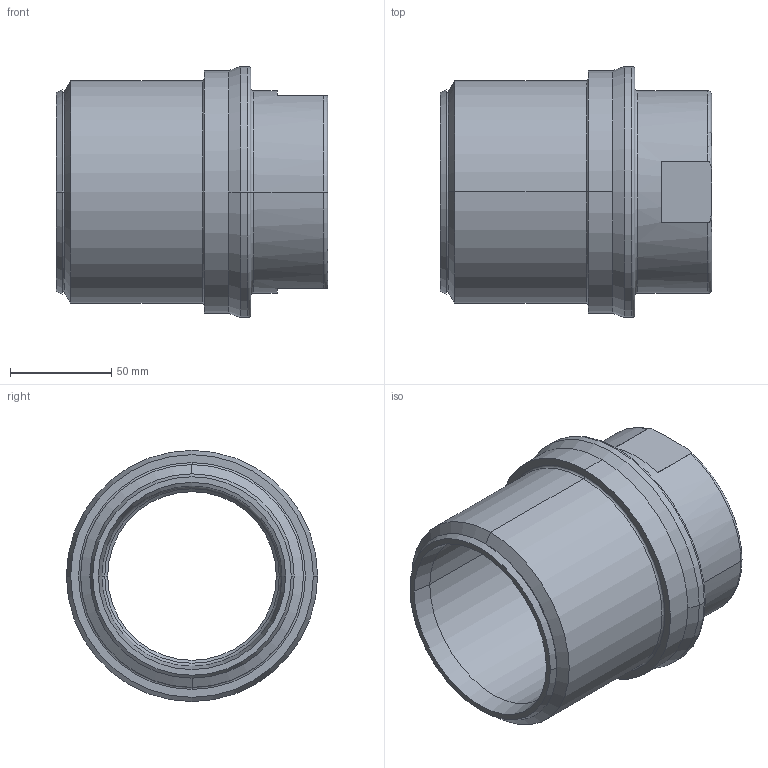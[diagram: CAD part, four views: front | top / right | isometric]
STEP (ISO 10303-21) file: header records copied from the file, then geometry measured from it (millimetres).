
FILE_DESCRIPTION (( 'STEP AP203' ), '1' );
FILE_NAME ('KP_C15-110-90F.step', '2011-08-08T12:03:42', ( '' ), ( '' ), 'SwSTEP 2.0', 'SolidWorks 2011', '' );
FILE_SCHEMA (( 'CONFIG_CONTROL_DESIGN' ));
Length unit declared in the file: millimetre
Products named in the file (1): KP_C15-110-90F
Bounding box: 134 x 124 x 124 mm (x, y, z)
Volume: 424203.7 mm3; surface area: 92969.1 mm2
Topology: 1 solids, 1 shells, 54 faces, 120 edges, 73 vertices
Faces by surface type: plane 15, cylinder 14, cone 14, torus 11
Entity records: 1641 total; most frequent: CARTESIAN_POINT 320, DIRECTION 290, ORIENTED_EDGE 240, AXIS2_PLACEMENT_3D 123, EDGE_CURVE 120, VERTEX_POINT 73, CIRCLE 68, EDGE_LOOP 61
